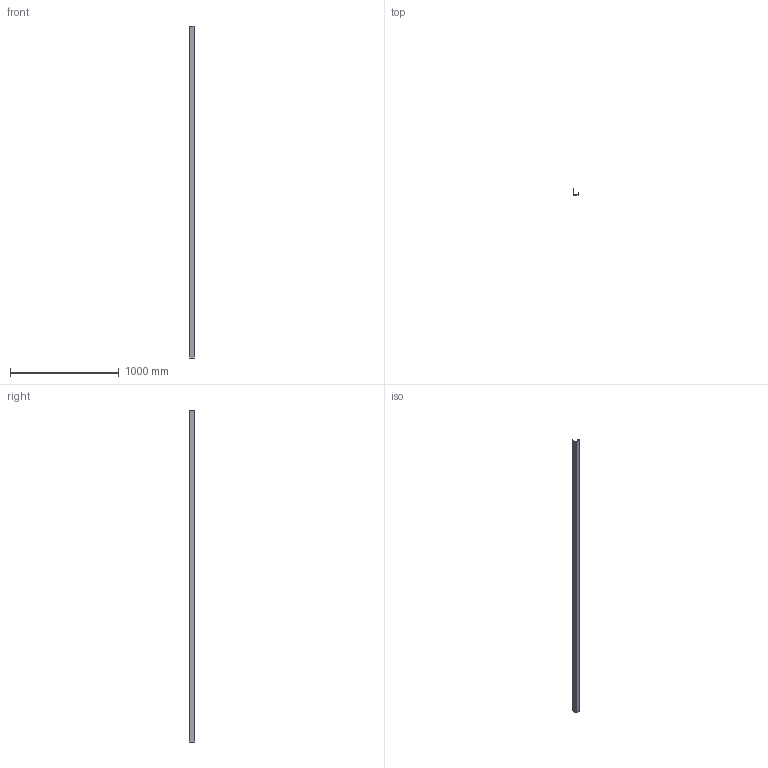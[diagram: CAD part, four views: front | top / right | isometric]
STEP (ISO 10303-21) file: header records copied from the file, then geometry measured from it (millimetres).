
FILE_DESCRIPTION (( 'STEP AP203' ), '1' );
FILE_NAME ('M02B.STEP', '2018-06-18T17:14:37', ( 'Michael Moliner' ), ( '' ), 'SwSTEP 2.0', 'SolidWorks 2018', '' );
FILE_SCHEMA (( 'CONFIG_CONTROL_DESIGN' ));
Length unit declared in the file: inch
Products named in the file (2): M02B
Bounding box: 41.41 x 50.8 x 3048 mm (x, y, z)
Volume: 264765.7 mm3; surface area: 1045655.2 mm2
Topology: 1 solids, 1 shells, 26 faces, 72 edges, 48 vertices
Faces by surface type: plane 16, cylinder 10
Entity records: 993 total; most frequent: CARTESIAN_POINT 148, DIRECTION 148, ORIENTED_EDGE 144, EDGE_CURVE 72, LINE 52, VECTOR 52, AXIS2_PLACEMENT_3D 48, VERTEX_POINT 48
